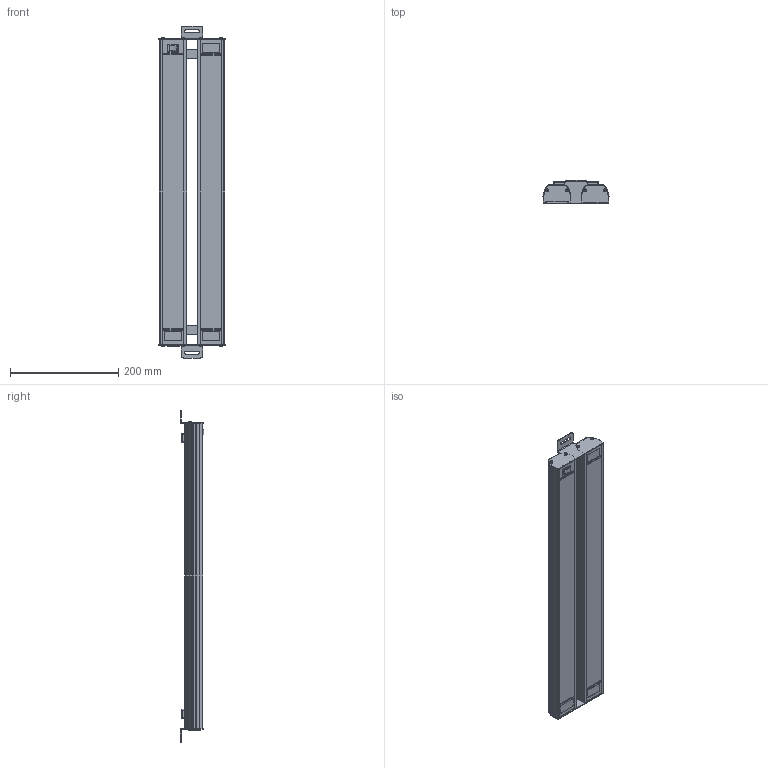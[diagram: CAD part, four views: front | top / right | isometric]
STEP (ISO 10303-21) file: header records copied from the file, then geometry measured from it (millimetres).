
FILE_DESCRIPTION (( 'STEP AP203' ), '1' );
FILE_NAME ('PS_WorkLED_SE_DUO_30.STEP', '2019-04-02T09:14:13', ( '' ), ( '' ), 'SwSTEP 2.0', 'SolidWorks 2017', '' );
FILE_SCHEMA (( 'CONFIG_CONTROL_DESIGN' ));
Length unit declared in the file: millimetre
Products named in the file (1): PS_WorkLED_SE_DUO_30
Bounding box: 122.16 x 43.29 x 614 mm (x, y, z)
Surface area: 227409.4 mm2 (no closed solid volume)
Topology: 0 solids, 35 shells, 664 faces, 2431 edges, 1764 vertices
Faces by surface type: cylinder 348, plane 257, bspline 24, torus 19, cone 8, sphere 8
Entity records: 26054 total; most frequent: CARTESIAN_POINT 6087, DIRECTION 4344, ORIENTED_EDGE 3370, EDGE_CURVE 2415, VERTEX_POINT 1760, AXIS2_PLACEMENT_3D 1499, VECTOR 1346, LINE 1346
